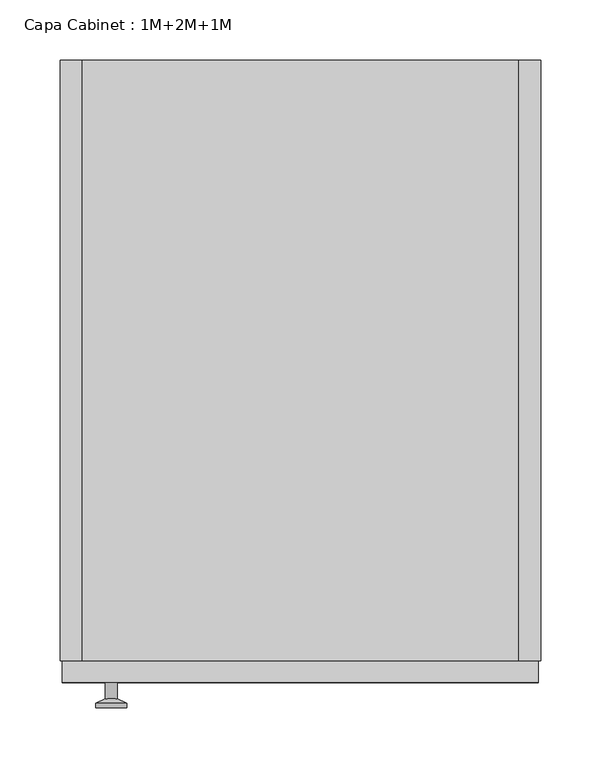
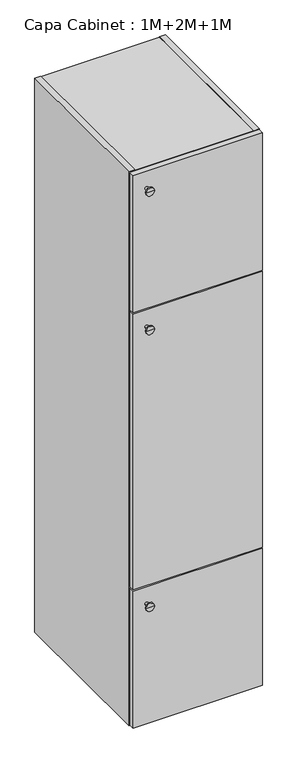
"""IFC4 building model written with IfcOpenShell, lengths in millimetres: furniture geometry, Capa Cabinet : 1M+2M+1M."""

from ifc_helpers import new_model, si_unit, frame, origin, place, context, project, spatial, polyline, circle_curve, outline, extrude, faceted_brep, source, transform, mapped, element, save
from ifc_brep_helpers import plane_surface, cylinder_surface, revolved_surface, advanced_brep


def capa_cabinet_1m_2m_1m_3826efc1(model_context):
    return source(origin(), model_context, "Body", "SolidModel", [
        extrude(outline(polyline([(182.0, 0.0), (-182.0, 0.0), (-182.0, 490.0), (182.0, 490.0), (182.0, 0.0)])), frame((0.0, 0.0, 1337.0), z_axis=(0.0, 0.0, 1.0), x_axis=(1.0, 0.0, 0.0)), (0.0, 0.0, 1.0), 14.0),
        extrude(outline(polyline([(182.0, 0.0), (-182.0, 0.0), (-182.0, 490.0), (182.0, 490.0), (182.0, 0.0)])), frame((0.0, 0.0, 889.0), z_axis=(0.0, 0.0, 1.0), x_axis=(1.0, 0.0, 0.0)), (0.0, 0.0, 1.0), 14.0),
        extrude(outline(polyline([(182.0, 0.0), (-182.0, 0.0), (-182.0, 490.0), (182.0, 490.0), (182.0, 0.0)])), frame((0.0, 0.0, 441.0), z_axis=(0.0, 0.0, 1.0), x_axis=(1.0, 0.0, 0.0)), (0.0, 0.0, 1.0), 14.0),
        faceted_brep([(-182.0, 500.0, 1792.0), (-182.0, 500.0, 1791.0), (182.0, 500.0, 1791.0), (182.0, 500.0, 1792.0), (200.0, 500.0, 1792.0), (200.0, 500.0, 0.0), (182.0, 500.0, 0.0), (182.0, 500.0, 1.0), (-182.0, 500.0, 1.0), (-182.0, 500.0, 0.0), (-200.0, 500.0, 0.0), (-200.0, 500.0, 1792.0), (182.0, 490.0, 19.0), (182.0, 490.0, 1773.0), (-182.0, 490.0, 1773.0), (-182.0, 490.0, 19.0), (-182.0, 0.0, 1792.0), (-200.0, 0.0, 1792.0), (-200.0, 0.0, 0.0), (-182.0, 0.0, 0.0), (-182.0, 0.0, 1.0), (182.0, 0.0, 1.0), (182.0, 0.0, 0.0), (200.0, 0.0, 0.0), (200.0, 0.0, 1792.0), (182.0, 0.0, 1792.0), (182.0, 0.0, 1791.0), (-182.0, 0.0, 1791.0), (182.0, 0.0, 1773.0), (182.0, 0.0, 19.0), (-182.0, 0.0, 19.0), (-182.0, 0.0, 1773.0)], [[[0, 1, 2, 3, 4, 5, 6, 7, 8, 9, 10, 11]], [[12, 13, 14, 15]], [[16, 17, 18, 19, 20, 21, 22, 23, 24, 25, 26, 27], [28, 29, 30, 31]], [[17, 16, 0, 11]], [[18, 17, 11, 10]], [[23, 22, 6, 5]], [[24, 23, 5, 4]], [[19, 18, 10, 9]], [[20, 19, 9, 8]], [[21, 20, 8, 7]], [[22, 21, 7, 6]], [[25, 24, 4, 3]], [[26, 25, 3, 2]], [[27, 26, 2, 1]], [[16, 27, 1, 0]], [[29, 28, 13, 12]], [[30, 29, 12, 15]], [[31, 30, 15, 14]], [[28, 31, 14, 13]]]),
        extrude(outline(polyline([(198.0, -18.0), (-198.0, -18.0), (-198.0, 0.0), (198.0, 0.0), (198.0, -18.0)])), frame((0.0, 0.0, 1346.0), z_axis=(0.0, 0.0, 1.0), x_axis=(1.0, 0.0, 0.0)), (0.0, 0.0, 1.0), 444.0),
        advanced_brep(
        [(-157.2922597, -18.0, 1736.0), (-152.2922597, -18.0, 1736.0), (-162.2922597, -18.0, 1736.0), (-170.2922597, -38.997134, 1736.0), (-144.2922597, -38.997134, 1736.0), (-157.2922597, -38.997134, 1736.0), (-170.2922597, -35.5419417, 1736.0), (-144.2922597, -35.5419417, 1736.0), (-162.2922597, -31.8114804, 1736.0), (-152.2922597, -31.8114804, 1736.0)],
        [
            (0, 1),
            (1, 2, circle_curve(frame((-157.2922597, -18.0, 1736.0), z_axis=(0.0, 1.0, 0.0), x_axis=(1.0, 0.0, 0.0)), 5.0)),
            (2, 0),
            (2, 1, circle_curve(frame((-157.2922597, -18.0, 1736.0), z_axis=(0.0, 1.0, 0.0), x_axis=(1.0, 0.0, 0.0)), 5.0)),
            (3, 4, circle_curve(frame((-157.2922597, -38.997134, 1736.0), z_axis=(0.0, -1.0, 0.0), x_axis=(1.0, 0.0, 0.0)), 13.0)),
            (4, 5),
            (5, 3),
            (4, 3, circle_curve(frame((-157.2922597, -38.997134, 1736.0), z_axis=(0.0, -1.0, 0.0), x_axis=(1.0, 0.0, 0.0)), 13.0)),
            (6, 7, circle_curve(frame((-157.2922597, -35.5419417, 1736.0), z_axis=(0.0, -1.0, 0.0), x_axis=(1.0, 0.0, 0.0)), 13.0)),
            (7, 4),
            (3, 6),
            (7, 6, circle_curve(frame((-157.2922597, -35.5419417, 1736.0), z_axis=(0.0, -1.0, 0.0), x_axis=(1.0, 0.0, 0.0)), 13.0)),
            (8, 9, circle_curve(frame((-157.2922597, -31.8114804, 1736.0), z_axis=(0.0, -1.0, 0.0), x_axis=(1.0, 0.0, 0.0)), 5.0)),
            (9, 7),
            (6, 8),
            (9, 8, circle_curve(frame((-157.2922597, -31.8114804, 1736.0), z_axis=(0.0, -1.0, 0.0), x_axis=(1.0, 0.0, 0.0)), 5.0)),
            (1, 9),
            (8, 2),
        ],
        [
            plane_surface(frame((-157.2922597, -18.0, 1736.0), z_axis=(0.0, 1.0, 0.0), x_axis=(1.0, 0.0, 0.0))),
            plane_surface(frame((-157.2922597, -38.997134, 1736.0), z_axis=(0.0, -1.0, 0.0), x_axis=(1.0, 0.0, 0.0))),
            cylinder_surface(frame((-157.2922597, -38.997134, 1736.0), z_axis=(0.0, 1.0, 0.0), x_axis=(1.0, 0.0, 0.0)), 13.0),
            revolved_surface(polyline([(-144.2922597, -35.5419417, 1736.0), (-152.2922597, -31.8114804, 1736.0)]), (-157.2922597, -38.997134, 1736.0), (0.0, 1.0, 0.0)),
            cylinder_surface(frame((-157.2922597, -38.997134, 1736.0), z_axis=(0.0, 1.0, 0.0), x_axis=(1.0, 0.0, 0.0)), 5.0),
        ],
        [
            (0, [[1, 2, 3]]),
            (0, [[-3, 4, -1]]),
            (1, [[5, 6, 7]]),
            (1, [[8, -7, -6]]),
            (2, [[9, 10, -5, 11]]),
            (2, [[12, -11, -8, -10]]),
            (3, [[13, 14, -9, 15]]),
            (3, [[16, -15, -12, -14]]),
            (4, [[-2, 17, -13, 18]]),
            (4, [[-4, -18, -16, -17]]),
        ],
    ),
        extrude(outline(polyline([(198.0, -18.0), (-198.0, -18.0), (-198.0, 0.0), (198.0, 0.0), (198.0, -18.0)])), frame((0.0, 0.0, 450.0), z_axis=(0.0, 0.0, 1.0), x_axis=(1.0, 0.0, 0.0)), (0.0, 0.0, 1.0), 892.0),
        advanced_brep(
        [(-157.2922597, -18.0, 1288.0), (-152.2922597, -18.0, 1288.0), (-162.2922597, -18.0, 1288.0), (-170.2922597, -38.997134, 1288.0), (-144.2922597, -38.997134, 1288.0), (-157.2922597, -38.997134, 1288.0), (-170.2922597, -35.5419417, 1288.0), (-144.2922597, -35.5419417, 1288.0), (-162.2922597, -31.8114804, 1288.0), (-152.2922597, -31.8114804, 1288.0)],
        [
            (0, 1),
            (1, 2, circle_curve(frame((-157.2922597, -18.0, 1288.0), z_axis=(0.0, 1.0, 0.0), x_axis=(1.0, 0.0, 0.0)), 5.0)),
            (2, 0),
            (2, 1, circle_curve(frame((-157.2922597, -18.0, 1288.0), z_axis=(0.0, 1.0, 0.0), x_axis=(1.0, 0.0, 0.0)), 5.0)),
            (3, 4, circle_curve(frame((-157.2922597, -38.997134, 1288.0), z_axis=(0.0, -1.0, 0.0), x_axis=(1.0, 0.0, 0.0)), 13.0)),
            (4, 5),
            (5, 3),
            (4, 3, circle_curve(frame((-157.2922597, -38.997134, 1288.0), z_axis=(0.0, -1.0, 0.0), x_axis=(1.0, 0.0, 0.0)), 13.0)),
            (6, 7, circle_curve(frame((-157.2922597, -35.5419417, 1288.0), z_axis=(0.0, -1.0, 0.0), x_axis=(1.0, 0.0, 0.0)), 13.0)),
            (7, 4),
            (3, 6),
            (7, 6, circle_curve(frame((-157.2922597, -35.5419417, 1288.0), z_axis=(0.0, -1.0, 0.0), x_axis=(1.0, 0.0, 0.0)), 13.0)),
            (8, 9, circle_curve(frame((-157.2922597, -31.8114804, 1288.0), z_axis=(0.0, -1.0, 0.0), x_axis=(1.0, 0.0, 0.0)), 5.0)),
            (9, 7),
            (6, 8),
            (9, 8, circle_curve(frame((-157.2922597, -31.8114804, 1288.0), z_axis=(0.0, -1.0, 0.0), x_axis=(1.0, 0.0, 0.0)), 5.0)),
            (1, 9),
            (8, 2),
        ],
        [
            plane_surface(frame((-157.2922597, -18.0, 1288.0), z_axis=(0.0, 1.0, 0.0), x_axis=(1.0, 0.0, 0.0))),
            plane_surface(frame((-157.2922597, -38.997134, 1288.0), z_axis=(0.0, -1.0, 0.0), x_axis=(1.0, 0.0, 0.0))),
            cylinder_surface(frame((-157.2922597, -38.997134, 1288.0), z_axis=(0.0, 1.0, 0.0), x_axis=(1.0, 0.0, 0.0)), 13.0),
            revolved_surface(polyline([(-144.2922597, -35.5419417, 1288.0), (-152.2922597, -31.8114804, 1288.0)]), (-157.2922597, -38.997134, 1288.0), (0.0, 1.0, 0.0)),
            cylinder_surface(frame((-157.2922597, -38.997134, 1288.0), z_axis=(0.0, 1.0, 0.0), x_axis=(1.0, 0.0, 0.0)), 5.0),
        ],
        [
            (0, [[1, 2, 3]]),
            (0, [[-3, 4, -1]]),
            (1, [[5, 6, 7]]),
            (1, [[8, -7, -6]]),
            (2, [[9, 10, -5, 11]]),
            (2, [[12, -11, -8, -10]]),
            (3, [[13, 14, -9, 15]]),
            (3, [[16, -15, -12, -14]]),
            (4, [[-2, 17, -13, 18]]),
            (4, [[-4, -18, -16, -17]]),
        ],
    ),
        extrude(outline(polyline([(198.0, -18.0), (-198.0, -18.0), (-198.0, 0.0), (198.0, 0.0), (198.0, -18.0)])), frame((0.0, 0.0, 2.0), z_axis=(0.0, 0.0, 1.0), x_axis=(1.0, 0.0, 0.0)), (0.0, 0.0, 1.0), 444.0),
        advanced_brep(
        [(-157.2922597, -18.0, 392.0), (-152.2922597, -18.0, 392.0), (-162.2922597, -18.0, 392.0), (-170.2922597, -38.997134, 392.0), (-144.2922597, -38.997134, 392.0), (-157.2922597, -38.997134, 392.0), (-170.2922597, -35.5419417, 392.0), (-144.2922597, -35.5419417, 392.0), (-162.2922597, -31.8114804, 392.0), (-152.2922597, -31.8114804, 392.0)],
        [
            (0, 1),
            (1, 2, circle_curve(frame((-157.2922597, -18.0, 392.0), z_axis=(0.0, 1.0, 0.0), x_axis=(1.0, 0.0, 0.0)), 5.0)),
            (2, 0),
            (2, 1, circle_curve(frame((-157.2922597, -18.0, 392.0), z_axis=(0.0, 1.0, 0.0), x_axis=(1.0, 0.0, 0.0)), 5.0)),
            (3, 4, circle_curve(frame((-157.2922597, -38.997134, 392.0), z_axis=(0.0, -1.0, 0.0), x_axis=(1.0, 0.0, 0.0)), 13.0)),
            (4, 5),
            (5, 3),
            (4, 3, circle_curve(frame((-157.2922597, -38.997134, 392.0), z_axis=(0.0, -1.0, 0.0), x_axis=(1.0, 0.0, 0.0)), 13.0)),
            (6, 7, circle_curve(frame((-157.2922597, -35.5419417, 392.0), z_axis=(0.0, -1.0, 0.0), x_axis=(1.0, 0.0, 0.0)), 13.0)),
            (7, 4),
            (3, 6),
            (7, 6, circle_curve(frame((-157.2922597, -35.5419417, 392.0), z_axis=(0.0, -1.0, 0.0), x_axis=(1.0, 0.0, 0.0)), 13.0)),
            (8, 9, circle_curve(frame((-157.2922597, -31.8114804, 392.0), z_axis=(0.0, -1.0, 0.0), x_axis=(1.0, 0.0, 0.0)), 5.0)),
            (9, 7),
            (6, 8),
            (9, 8, circle_curve(frame((-157.2922597, -31.8114804, 392.0), z_axis=(0.0, -1.0, 0.0), x_axis=(1.0, 0.0, 0.0)), 5.0)),
            (1, 9),
            (8, 2),
        ],
        [
            plane_surface(frame((-157.2922597, -18.0, 392.0), z_axis=(0.0, 1.0, 0.0), x_axis=(1.0, 0.0, 0.0))),
            plane_surface(frame((-157.2922597, -38.997134, 392.0), z_axis=(0.0, -1.0, 0.0), x_axis=(1.0, 0.0, 0.0))),
            cylinder_surface(frame((-157.2922597, -38.997134, 392.0), z_axis=(0.0, 1.0, 0.0), x_axis=(1.0, 0.0, 0.0)), 13.0),
            revolved_surface(polyline([(-144.2922597, -35.5419417, 392.0), (-152.2922597, -31.8114804, 392.0)]), (-157.2922597, -38.997134, 392.0), (0.0, 1.0, 0.0)),
            cylinder_surface(frame((-157.2922597, -38.997134, 392.0), z_axis=(0.0, 1.0, 0.0), x_axis=(1.0, 0.0, 0.0)), 5.0),
        ],
        [
            (0, [[1, 2, 3]]),
            (0, [[-3, 4, -1]]),
            (1, [[5, 6, 7]]),
            (1, [[8, -7, -6]]),
            (2, [[9, 10, -5, 11]]),
            (2, [[12, -11, -8, -10]]),
            (3, [[13, 14, -9, 15]]),
            (3, [[16, -15, -12, -14]]),
            (4, [[-2, 17, -13, 18]]),
            (4, [[-4, -18, -16, -17]]),
        ],
    ),
    ])


if __name__ == "__main__":
    model = new_model("IFC4")
    model_context = context("Model", 3, world=origin())
    ifc_project = project(units=[si_unit("LENGTHUNIT", "METRE", prefix="MILLI")], contexts=[model_context])
    site = spatial("IfcSite", under=ifc_project)
    building = spatial("IfcBuilding", under=site)
    placement = place(None, origin())
    capa_cabinet_1m_2m_1m_shape = capa_cabinet_1m_2m_1m_3826efc1(model_context)
    element("IfcFurniture", 1, ObjectType="Capa Cabinet : 1M+2M+1M", at=placement, inside=building, context=model_context, shape_type="MappedRepresentation", body=[
        mapped(capa_cabinet_1m_2m_1m_shape, transform((0.0, 0.0, 0.0), x_axis=(1.0, 0.0, 0.0), y_axis=(0.0, 1.0, 0.0), z_axis=(0.0, 0.0, 1.0))),
    ])
    save(model, "model.ifc")
